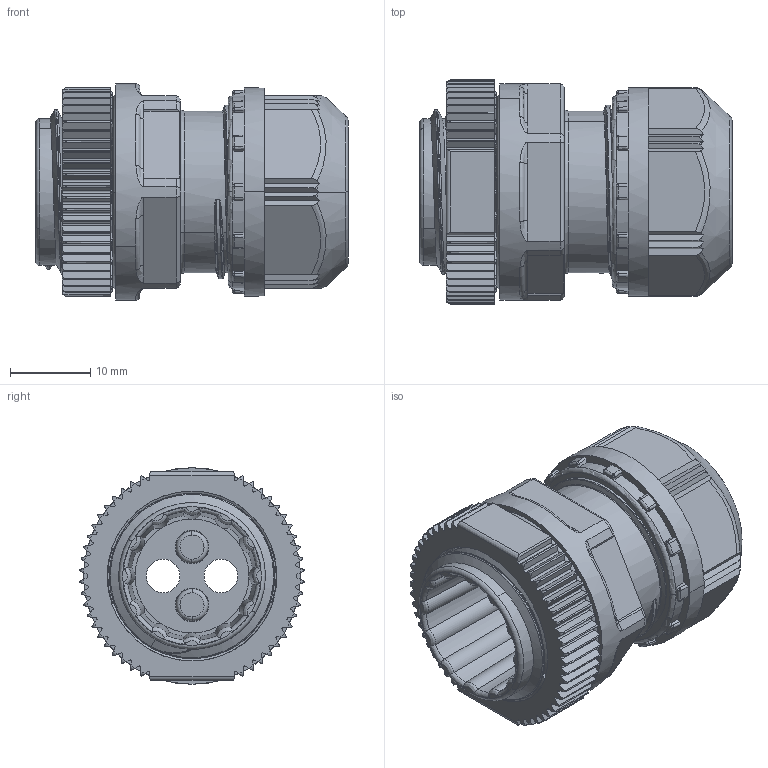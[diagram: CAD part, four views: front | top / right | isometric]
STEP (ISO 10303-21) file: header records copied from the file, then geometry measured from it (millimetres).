
FILE_DESCRIPTION(('Creo Elements/Direct Modeling STEP Export'),'2;1');
FILE_NAME('H05-0030-CL901-02_OA-W16-404.stp','2021-11-26T11:43:44',(''),(''),'Creo Elements/Direct Modeling STEP processor for AP214 (Solid Model)','Creo Elements/Direct Modeling 20.3B 05-Dec-2020 (C) Parametric Technology GmbH','');
FILE_SCHEMA(('AUTOMOTIVE_DESIGN { 1 0 10303 214 1 1 1 1 }'));
Length unit declared in the file: millimetre
Products named in the file (5): LN-CTG16P; BB-040S_2; G13-404; Nipplle; OA-W16-404
Assembly tree (5 placements, depth 2):
  OA-W16-404
    Nipplle
    G13-404
    BB-040S_2  x2
    LN-CTG16P
Bounding box: 38.98 x 27.96 x 27 mm (x, y, z)
Volume: 13203.5 mm3; surface area: 11387 mm2
Topology: 5 solids, 5 shells, 1159 faces, 3145 edges, 1963 vertices
Faces by surface type: plane 376, cylinder 374, bspline 189, torus 130, sphere 50, cone 40
Entity records: 59186 total; most frequent: CARTESIAN_POINT 32706, ORIENTED_EDGE 6074, DIRECTION 4642, EDGE_CURVE 3037, VERTEX_POINT 1920, AXIS2_PLACEMENT_3D 1747, EDGE_LOOP 1165, VECTOR 1148
